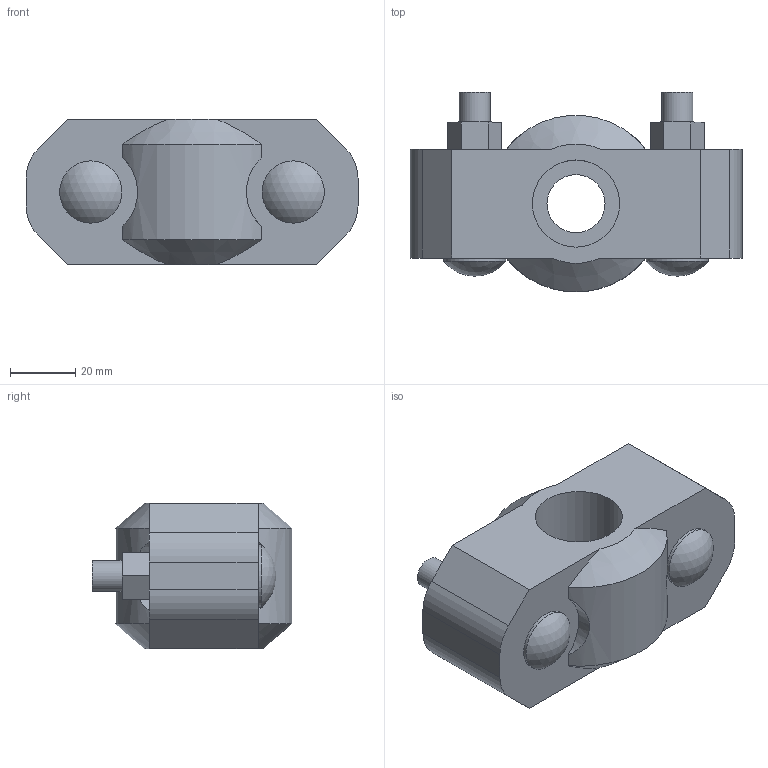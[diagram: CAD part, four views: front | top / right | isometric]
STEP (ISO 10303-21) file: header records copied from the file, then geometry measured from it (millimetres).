
FILE_DESCRIPTION(/* description */ ('Victaulic Standard Flexible Coupling Style 77','CAx-IF Rec.Pracs.---Representation and Presentation of Product Manufacturing Information (PMI)---4.0---2014-10-13'),/* implementation_level */ '2;1');
FILE_NAME(/* name */ 'C:\Users\Vjadhav\Desktop\CAD for Inventor\1\Coupling bolt thickness\77\Victaulic_IPS_Coupling Flexible_Style 77 (OGS)\Victaulic_IPS_Coupling Flexible_Style 77 (OGS)_0.75 (20).stp',/* time_stamp */ '2022-03-24T18:19:35+06:00',/* author */ ('CONSTRUCTION PIPING SERVICES'),/* organization */ ('Victaulic'),/* preprocessor_version */ 'ST-DEVELOPER v17.2',/* originating_system */ 'Autodesk Inventor 2019',/* authorisation */ '');
FILE_SCHEMA (('AP242_MANAGED_MODEL_BASED_3D_ENGINEERING_MIM_LF { 1 0 10303 442 1 1 4 }'));
Length unit declared in the file: inch
Products named in the file (1): 077-0.75
Bounding box: 101.6 x 61.1 x 44.45 mm (x, y, z)
Volume: 140540.6 mm3; surface area: 27626.9 mm2
Topology: 1 solids, 3 shells, 61 faces, 142 edges, 95 vertices
Faces by surface type: plane 34, cylinder 21, cone 4, sphere 2
Full cylindrical faces by diameter (mm): 9.525 x4, 11.43 x2, 17.78 x1, 19.05 x2, 26.67 x2
Entity records: 2027 total; most frequent: CARTESIAN_POINT 400, DIRECTION 323, ORIENTED_EDGE 284, EDGE_CURVE 142, AXIS2_PLACEMENT_3D 118, VERTEX_POINT 95, LINE 87, VECTOR 87
